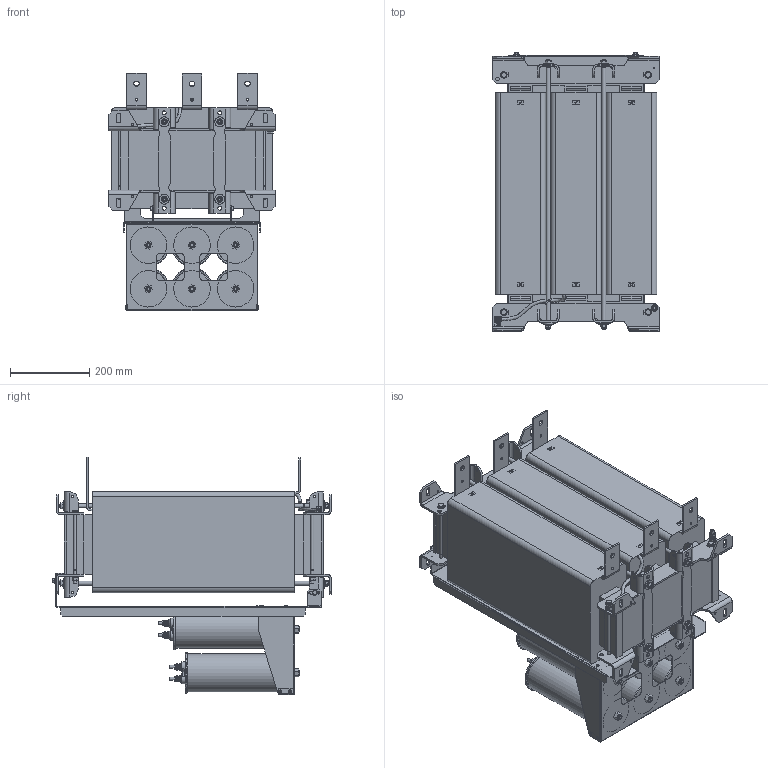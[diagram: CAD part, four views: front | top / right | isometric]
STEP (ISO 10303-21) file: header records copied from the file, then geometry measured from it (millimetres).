
FILE_DESCRIPTION(/* description */ (''),/* implementation_level */ '2;1');
FILE_NAME(/* name */ 'C:\Users\Erika.Jenzer\Desktop\CO20007647\Step Files\FN5420-710-99-E0XXT.stp',/* time_stamp */ '2021-03-02T10:42:11+01:00',/* author */ ('erika.jenzer'),/* organization */ (''),/* preprocessor_version */ 'ST-DEVELOPER v18.1',/* originating_system */ 'Autodesk Inventor 2020',/* authorisation */ '');
FILE_SCHEMA (('AUTOMOTIVE_DESIGN { 1 0 10303 214 3 1 1 }'));
Products named in the file (1): FN5420-710-99-E0XXT
Bounding box: 420 x 701.45 x 599.75 mm (x, y, z)
Surface area: 3579781 mm2 (no closed solid volume)
Topology: 0 solids, 42 shells, 2800 faces, 7602 edges, 5082 vertices
Faces by surface type: plane 1807, cylinder 686, cone 161, bspline 115, torus 30, sphere 1
Full cylindrical faces by diameter (mm): 0.003 x1, 1 x1, 2.013 x4, 2.5 x1, 2.8 x5, 3.4 x4, 4 x8, 4.1 x4, 4.3 x8, 5.5 x20, 6 x8, 6.6 x6, 7.78 x4, 7.9 x8, 8 x59, 8.2 x1, 8.4 x18, 8.6 x24, 9 x12, 9.5 x4, 10.2 x16, 10.5 x7, 11.4 x1, 11.5 x12, 12 x18, 12.5 x6, 13 x4, 13.5 x6, 16 x34, 22 x12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
Entity records: 97399 total; most frequent: CARTESIAN_POINT 22981, ORIENTED_EDGE 15201, DIRECTION 14621, EDGE_CURVE 7601, VERTEX_POINT 5082, AXIS2_PLACEMENT_3D 5080, LINE 4461, VECTOR 4461
